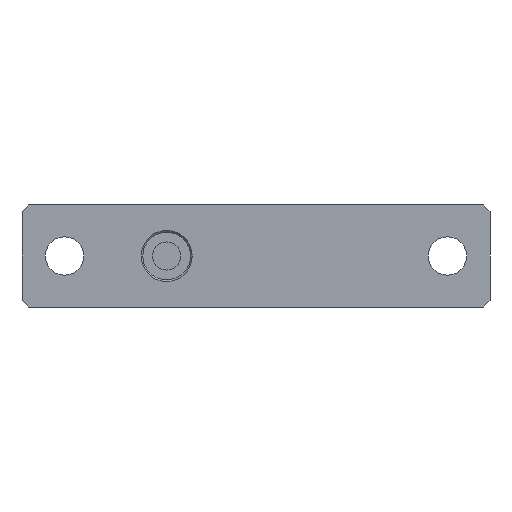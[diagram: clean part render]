
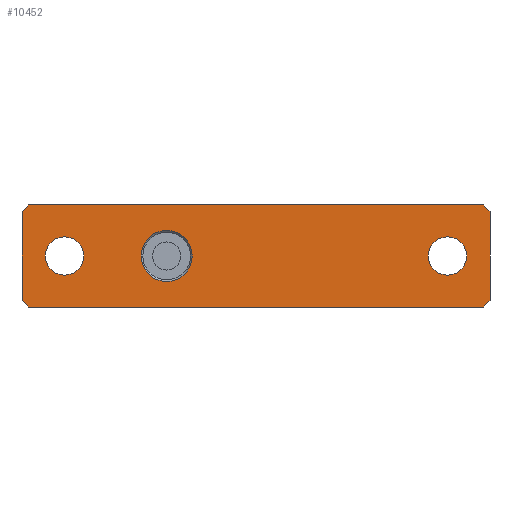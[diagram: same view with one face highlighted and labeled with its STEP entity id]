
A CAD part, front view. The second image highlights one B-rep face of the part: STEP entity #10452.
In plain terms, the highlighted planar face has unit normal (0, -1, 0).
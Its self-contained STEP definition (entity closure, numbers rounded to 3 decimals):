
#165=DIRECTION('',(1.,0.,0.));
#166=VECTOR('',#165,53.4);
#167=CARTESIAN_POINT('',(-26.7,0.,-6.));
#168=LINE('',#167,#166);
#496=DIRECTION('',(1.,0.,0.));
#497=VECTOR('',#496,53.4);
#498=CARTESIAN_POINT('',(-26.7,0.,6.));
#499=LINE('',#498,#497);
#814=CARTESIAN_POINT('',(-22.5,0.,0.));
#815=DIRECTION('',(0.,1.,0.));
#816=DIRECTION('',(1.,0.,0.));
#817=AXIS2_PLACEMENT_3D('',#814,#815,#816);
#822=CARTESIAN_POINT('',(-22.5,0.,0.));
#823=DIRECTION('',(0.,1.,0.));
#824=DIRECTION('',(-1.,0.,0.));
#825=AXIS2_PLACEMENT_3D('',#822,#823,#824);
#830=CARTESIAN_POINT('',(22.5,0.,0.));
#831=DIRECTION('',(0.,1.,0.));
#832=DIRECTION('',(1.,0.,0.));
#833=AXIS2_PLACEMENT_3D('',#830,#831,#832);
#838=CARTESIAN_POINT('',(22.5,0.,0.));
#839=DIRECTION('',(0.,1.,0.));
#840=DIRECTION('',(-1.,0.,0.));
#841=AXIS2_PLACEMENT_3D('',#838,#839,#840);
#846=CARTESIAN_POINT('',(-10.5,0.,0.));
#847=DIRECTION('',(0.,1.,0.));
#848=DIRECTION('',(-1.,0.,0.));
#849=AXIS2_PLACEMENT_3D('',#846,#847,#848);
#854=CARTESIAN_POINT('',(-10.5,0.,0.));
#855=DIRECTION('',(0.,1.,0.));
#856=DIRECTION('',(1.,0.,0.));
#857=AXIS2_PLACEMENT_3D('',#854,#855,#856);
#862=DIRECTION('',(0.707,0.,0.707));
#863=VECTOR('',#862,1.131);
#864=CARTESIAN_POINT('',(26.7,0.,-6.));
#865=LINE('',#864,#863);
#869=DIRECTION('',(0.707,0.,-0.707));
#870=VECTOR('',#869,1.131);
#871=CARTESIAN_POINT('',(-27.5,0.,-5.2));
#872=LINE('',#871,#870);
#876=DIRECTION('',(0.,0.,1.));
#877=VECTOR('',#876,10.4);
#878=CARTESIAN_POINT('',(-27.5,0.,-5.2));
#879=LINE('',#878,#877);
#883=DIRECTION('',(-0.707,0.,-0.707));
#884=VECTOR('',#883,1.131);
#885=CARTESIAN_POINT('',(-26.7,0.,6.));
#886=LINE('',#885,#884);
#890=DIRECTION('',(-0.707,0.,0.707));
#891=VECTOR('',#890,1.131);
#892=CARTESIAN_POINT('',(27.5,0.,5.2));
#893=LINE('',#892,#891);
#2620=DIRECTION('',(0.,0.,1.));
#2621=VECTOR('',#2620,10.4);
#2622=CARTESIAN_POINT('',(27.5,0.,-5.2));
#2623=LINE('',#2622,#2621);
#8878=CARTESIAN_POINT('',(26.7,0.,-6.));
#8879=CARTESIAN_POINT('',(27.5,0.,-5.2));
#8880=VERTEX_POINT('',#8878);
#8881=VERTEX_POINT('',#8879);
#8970=CARTESIAN_POINT('',(27.5,0.,5.2));
#8971=CARTESIAN_POINT('',(26.7,0.,6.));
#8972=VERTEX_POINT('',#8970);
#8973=VERTEX_POINT('',#8971);
#8974=CARTESIAN_POINT('',(-26.7,0.,-6.));
#8975=VERTEX_POINT('',#8974);
#8976=CARTESIAN_POINT('',(-26.7,0.,6.));
#8977=VERTEX_POINT('',#8976);
#8988=CARTESIAN_POINT('',(-27.5,0.,5.2));
#8989=VERTEX_POINT('',#8988);
#8990=CARTESIAN_POINT('',(-27.5,0.,-5.2));
#8991=VERTEX_POINT('',#8990);
#9036=CARTESIAN_POINT('',(-20.25,0.,0.));
#9037=CARTESIAN_POINT('',(-24.75,0.,0.));
#9038=VERTEX_POINT('',#9036);
#9039=VERTEX_POINT('',#9037);
#9040=CARTESIAN_POINT('',(24.75,0.,0.));
#9041=CARTESIAN_POINT('',(20.25,0.,0.));
#9042=VERTEX_POINT('',#9040);
#9043=VERTEX_POINT('',#9041);
#9794=CARTESIAN_POINT('',(-13.5,0.,0.));
#9795=CARTESIAN_POINT('',(-7.5,0.,0.));
#9796=VERTEX_POINT('',#9794);
#9797=VERTEX_POINT('',#9795);
#10414=CARTESIAN_POINT('',(-27.5,0.,-6.));
#10415=DIRECTION('',(0.,-1.,0.));
#10416=DIRECTION('',(1.,0.,0.));
#10417=AXIS2_PLACEMENT_3D('',#10414,#10415,#10416);
#10418=PLANE('',#10417);
#10420=ORIENTED_EDGE('',*,*,#10419,.F.);
#10421=ORIENTED_EDGE('',*,*,#9837,.F.);
#10423=ORIENTED_EDGE('',*,*,#10422,.F.);
#10425=ORIENTED_EDGE('',*,*,#10424,.T.);
#10426=ORIENTED_EDGE('',*,*,#10397,.F.);
#10427=ORIENTED_EDGE('',*,*,#10074,.T.);
#10429=ORIENTED_EDGE('',*,*,#10428,.F.);
#10431=ORIENTED_EDGE('',*,*,#10430,.F.);
#10432=EDGE_LOOP('',(#10420,#10421,#10423,#10425,#10426,#10427,#10429,#10431));
#10433=FACE_OUTER_BOUND('',#10432,.F.);
#10435=ORIENTED_EDGE('',*,*,#10434,.F.);
#10437=ORIENTED_EDGE('',*,*,#10436,.F.);
#10438=EDGE_LOOP('',(#10435,#10437));
#10439=FACE_BOUND('',#10438,.F.);
#10441=ORIENTED_EDGE('',*,*,#10440,.F.);
#10443=ORIENTED_EDGE('',*,*,#10442,.F.);
#10444=EDGE_LOOP('',(#10441,#10443));
#10445=FACE_BOUND('',#10444,.F.);
#10447=ORIENTED_EDGE('',*,*,#10446,.F.);
#10449=ORIENTED_EDGE('',*,*,#10448,.F.);
#10450=EDGE_LOOP('',(#10447,#10449));
#10451=FACE_BOUND('',#10450,.F.);
#818=CIRCLE('',#817,2.25);
#826=CIRCLE('',#825,2.25);
#834=CIRCLE('',#833,2.25);
#842=CIRCLE('',#841,2.25);
#850=CIRCLE('',#849,3.);
#858=CIRCLE('',#857,3.);
#9837=EDGE_CURVE('',#8975,#8880,#168,.T.);
#10074=EDGE_CURVE('',#8977,#8973,#499,.T.);
#10397=EDGE_CURVE('',#8977,#8989,#886,.T.);
#10419=EDGE_CURVE('',#8880,#8881,#865,.T.);
#10422=EDGE_CURVE('',#8991,#8975,#872,.T.);
#10424=EDGE_CURVE('',#8991,#8989,#879,.T.);
#10428=EDGE_CURVE('',#8972,#8973,#893,.T.);
#10430=EDGE_CURVE('',#8881,#8972,#2623,.T.);
#10434=EDGE_CURVE('',#9042,#9043,#834,.T.);
#10436=EDGE_CURVE('',#9043,#9042,#842,.T.);
#10440=EDGE_CURVE('',#9796,#9797,#850,.T.);
#10442=EDGE_CURVE('',#9797,#9796,#858,.T.);
#10446=EDGE_CURVE('',#9038,#9039,#818,.T.);
#10448=EDGE_CURVE('',#9039,#9038,#826,.T.);
#10452=ADVANCED_FACE('',(#10433,#10439,#10445,#10451),#10418,.T.);
